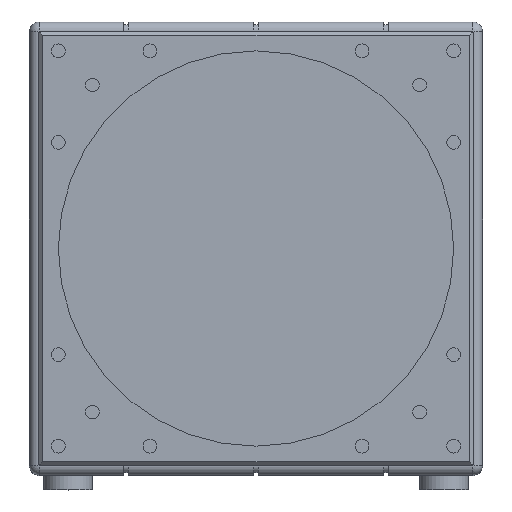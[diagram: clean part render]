
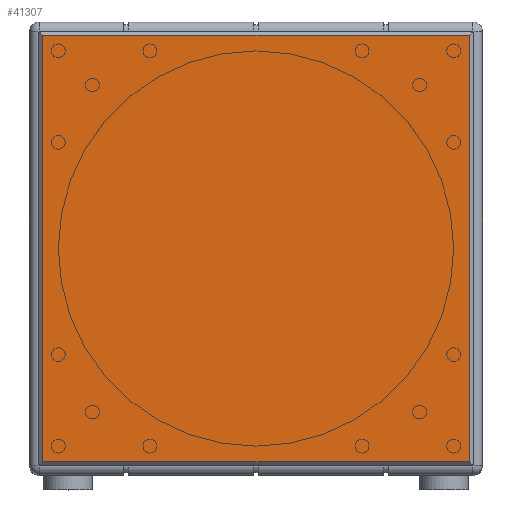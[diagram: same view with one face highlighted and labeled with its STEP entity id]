
A CAD part, top view. The second image highlights one B-rep face of the part: STEP entity #41307.
In plain terms, the highlighted planar face has unit normal (0, 0, 1) as drawn and (-0.117, -0.321, -0.94) by its records, which use the part's own axes.
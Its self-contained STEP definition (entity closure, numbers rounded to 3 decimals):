
#3210=LINE('',#57626,#6619);
#3211=LINE('',#57628,#6620);
#3212=LINE('',#57630,#6621);
#3213=LINE('',#57631,#6622);
#6619=VECTOR('',#47520,442.414);
#6620=VECTOR('',#47521,442.414);
#6621=VECTOR('',#47522,442.414);
#6622=VECTOR('',#47523,442.414);
#10558=FACE_OUTER_BOUND('',#13191,.T.);
#13191=EDGE_LOOP('',(#27550,#27551,#27552,#27553));
#17180=VERTEX_POINT('',#57624);
#17181=VERTEX_POINT('',#57625);
#17182=VERTEX_POINT('',#57627);
#17183=VERTEX_POINT('',#57629);
#21166=EDGE_CURVE('',#17180,#17181,#3210,.T.);
#21167=EDGE_CURVE('',#17181,#17182,#3211,.T.);
#21168=EDGE_CURVE('',#17182,#17183,#3212,.T.);
#21169=EDGE_CURVE('',#17183,#17180,#3213,.T.);
#27550=ORIENTED_EDGE('',*,*,#21166,.T.);
#27551=ORIENTED_EDGE('',*,*,#21167,.T.);
#27552=ORIENTED_EDGE('',*,*,#21168,.T.);
#27553=ORIENTED_EDGE('',*,*,#21169,.T.);
#40158=PLANE('',#44043);
#41307=ADVANCED_FACE('',(#10558),#40158,.F.);
#44043=AXIS2_PLACEMENT_3D('',#57623,#47518,#47519);
#47518=DIRECTION('center_axis',(0.117,0.321,0.94));
#47519=DIRECTION('ref_axis',(-0.437,0.866,-0.242));
#47520=DIRECTION('',(0.892,0.383,-0.242));
#47521=DIRECTION('',(0.437,-0.866,0.242));
#47522=DIRECTION('',(-0.892,-0.383,0.242));
#47523=DIRECTION('',(-0.437,0.866,-0.242));
#57623=CARTESIAN_POINT('Origin',(-185.857,495.396,-154.628));
#57624=CARTESIAN_POINT('',(-479.825,602.391,-154.628));
#57625=CARTESIAN_POINT('',(-85.314,771.635,-261.623));
#57626=CARTESIAN_POINT('',(-479.825,602.391,-154.628));
#57627=CARTESIAN_POINT('',(108.111,388.4,-154.628));
#57628=CARTESIAN_POINT('',(-85.314,771.635,-261.623));
#57629=CARTESIAN_POINT('',(-286.4,219.156,-47.632));
#57630=CARTESIAN_POINT('',(108.111,388.4,-154.628));
#57631=CARTESIAN_POINT('',(-286.4,219.156,-47.632));
